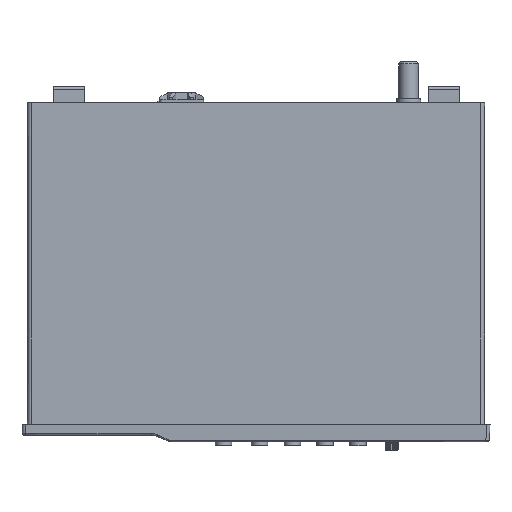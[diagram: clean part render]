
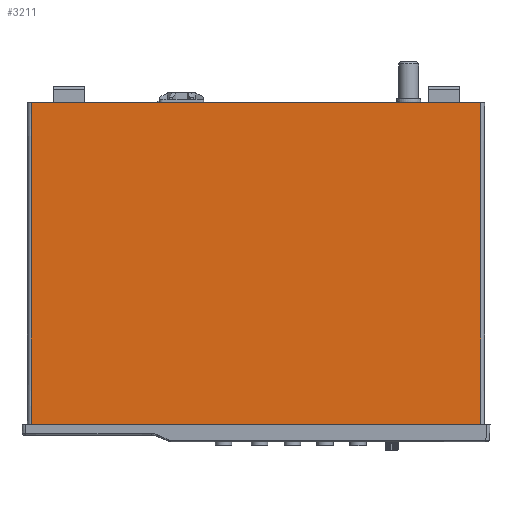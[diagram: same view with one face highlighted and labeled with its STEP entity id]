
A CAD part, top view. The second image highlights one B-rep face of the part: STEP entity #3211.
In plain terms, the highlighted planar face has unit normal (0, 0, 1).
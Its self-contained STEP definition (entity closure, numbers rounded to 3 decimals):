
#3211=ADVANCED_FACE($,(#6368),#50743,.T.);
#6368=FACE_OUTER_BOUND($,#9727,.T.);
#9727=EDGE_LOOP($,(#22860,#22861,#22862,#22863));
#22860=ORIENTED_EDGE($,*,*,#36589,.F.);
#22861=ORIENTED_EDGE($,*,*,#36592,.F.);
#22862=ORIENTED_EDGE($,*,*,#36581,.F.);
#22863=ORIENTED_EDGE($,*,*,#36593,.F.);
#36581=EDGE_CURVE($,#45881,#45871,#59751,.T.);
#36589=EDGE_CURVE($,#45888,#45891,#59755,.T.);
#36592=EDGE_CURVE($,#45871,#45888,#53082,.T.);
#36593=EDGE_CURVE($,#45891,#45881,#53083,.T.);
#45871=VERTEX_POINT($,#121609);
#45881=VERTEX_POINT($,#121619);
#45888=VERTEX_POINT($,#121626);
#45891=VERTEX_POINT($,#121629);
#50743=PLANE($,#63776);
#53082=(
BOUNDED_CURVE()
B_SPLINE_CURVE(3,(#120843,#120844,#120845,#120846),.UNSPECIFIED.,.F.,.F.)
B_SPLINE_CURVE_WITH_KNOTS((4,4),(0.,147.),.UNSPECIFIED.)
CURVE()
GEOMETRIC_REPRESENTATION_ITEM()
RATIONAL_B_SPLINE_CURVE((1.,1.,1.,1.))
REPRESENTATION_ITEM($)
);
#53083=(
BOUNDED_CURVE()
B_SPLINE_CURVE(3,(#120847,#120848,#120849,#120850),.UNSPECIFIED.,.F.,.F.)
B_SPLINE_CURVE_WITH_KNOTS((4,4),(0.,147.),.UNSPECIFIED.)
CURVE()
GEOMETRIC_REPRESENTATION_ITEM()
RATIONAL_B_SPLINE_CURVE((1.,1.,1.,1.))
REPRESENTATION_ITEM($)
);
#59751=B_SPLINE_CURVE_WITH_KNOTS($,1,(#120802,#120803),.UNSPECIFIED.,.F.,
.F.,(2,2),(-208.,-2.6),.UNSPECIFIED.);
#59755=B_SPLINE_CURVE_WITH_KNOTS($,1,(#120833,#120834),.UNSPECIFIED.,.F.,
.F.,(2,2),(2.6,208.),.UNSPECIFIED.);
#63776=AXIS2_PLACEMENT_3D($,#121205,#65896,$);
#65896=DIRECTION($,(0.,0.,1.));
#120802=CARTESIAN_POINT($,(102.7,-2.,41.8));
#120803=CARTESIAN_POINT($,(-102.7,-2.,41.8));
#120833=CARTESIAN_POINT($,(-102.7,145.,41.8));
#120834=CARTESIAN_POINT($,(102.7,145.,41.8));
#120843=CARTESIAN_POINT($,(-102.7,-2.,41.8));
#120844=CARTESIAN_POINT($,(-102.7,47.,41.8));
#120845=CARTESIAN_POINT($,(-102.7,96.,41.8));
#120846=CARTESIAN_POINT($,(-102.7,145.,41.8));
#120847=CARTESIAN_POINT($,(102.7,145.,41.8));
#120848=CARTESIAN_POINT($,(102.7,96.,41.8));
#120849=CARTESIAN_POINT($,(102.7,47.,41.8));
#120850=CARTESIAN_POINT($,(102.7,-2.,41.8));
#121205=CARTESIAN_POINT($,(102.7,145.,41.8));
#121609=CARTESIAN_POINT($,(-102.7,-2.,41.8));
#121619=CARTESIAN_POINT($,(102.7,-2.,41.8));
#121626=CARTESIAN_POINT($,(-102.7,145.,41.8));
#121629=CARTESIAN_POINT($,(102.7,145.,41.8));
